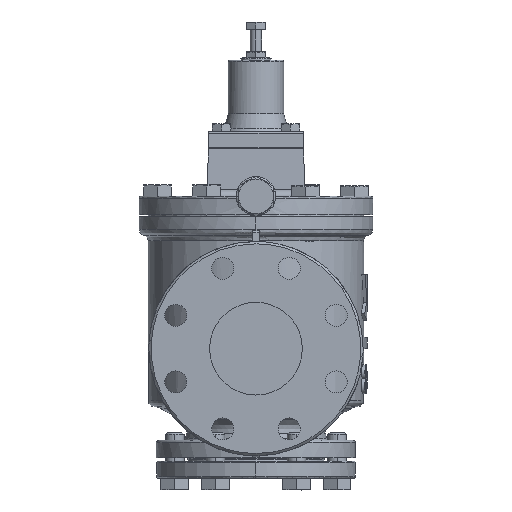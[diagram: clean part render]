
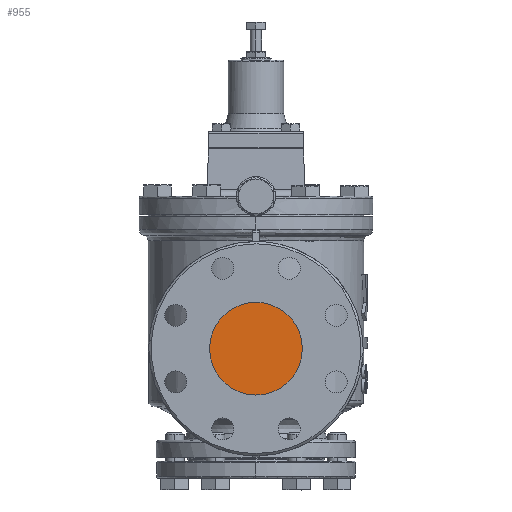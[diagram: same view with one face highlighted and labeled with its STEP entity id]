
A CAD part, left-side view. The second image highlights one B-rep face of the part: STEP entity #955.
In plain terms, the highlighted planar face has unit normal (-1, 0, 0).
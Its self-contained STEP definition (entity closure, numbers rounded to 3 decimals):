
#955=ADVANCED_FACE('',(#3352),#3351,.T.);
#3351=PLANE('',#16192);
#3352=FACE_OUTER_BOUND('',#16193,.T.);
#16189=CARTESIAN_POINT('',(-261.242,-79.282,-309.049));
#16190=DIRECTION('',(-1.,0.,0.));
#16191=DIRECTION('',(0.,0.,1.));
#16192=AXIS2_PLACEMENT_3D('',#16189,#16190,#16191);
#16193=EDGE_LOOP('',(#21884,#21885));
#21884=ORIENTED_EDGE('',*,*,#25277,.F.);
#21885=ORIENTED_EDGE('',*,*,#25278,.F.);
#25277=EDGE_CURVE('',#31272,#31273,#31274,.T.);
#25278=EDGE_CURVE('',#31273,#31272,#31280,.T.);
#31272=VERTEX_POINT('',#47062);
#31273=VERTEX_POINT('',#47063);
#31274=CIRCLE('',#47067,40.);
#31280=CIRCLE('',#47071,40.);
#47062=CARTESIAN_POINT('',(-261.242,0.,-259.049));
#47063=CARTESIAN_POINT('',(-261.242,0.,-179.049));
#47064=CARTESIAN_POINT('',(-261.242,0.,-219.049));
#47065=DIRECTION('',(1.,0.,0.));
#47066=DIRECTION('',(0.,0.,1.));
#47067=AXIS2_PLACEMENT_3D('',#47064,#47065,#47066);
#47068=CARTESIAN_POINT('',(-261.242,0.,-219.049));
#47069=DIRECTION('',(1.,0.,0.));
#47070=DIRECTION('',(0.,0.,1.));
#47071=AXIS2_PLACEMENT_3D('',#47068,#47069,#47070);
